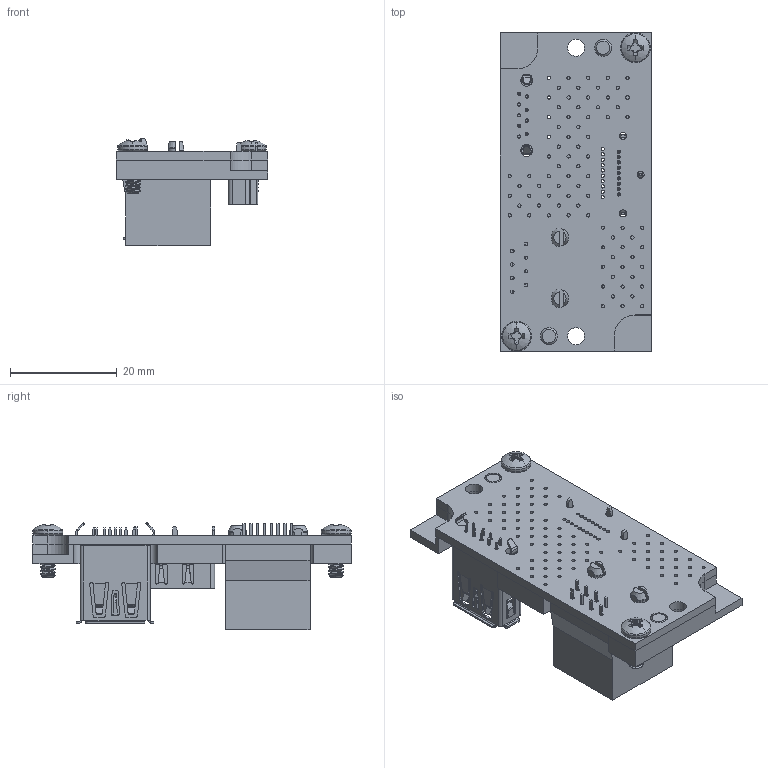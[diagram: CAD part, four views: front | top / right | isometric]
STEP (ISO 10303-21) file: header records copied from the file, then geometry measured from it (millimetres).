
FILE_DESCRIPTION (( 'STEP AP214' ), '1' );
FILE_NAME ('820921.STEP', '2024-08-01T15:25:48', ( '' ), ( '' ), 'SwSTEP 2.0', 'SolidWorks 2022', '' );
FILE_SCHEMA (( 'AUTOMOTIVE_DESIGN' ));
Length unit declared in the file: inch
Products named in the file (13): 98381A468_98381A468; 10117836_Mounted; 476591000; 476591000_4; 923001; 91735A103_91735A103; 820921; 476591000_2; c-5556416-01-b-3d; 820320; C26455A-PCB; 476591000_1
Assembly tree (14 placements, depth 4):
  820921
    820320
    98381A468_98381A468  x2
    91735A103_91735A103  x2
    923001
      476591000
        476591000_1
        476591000_4
        476591000_2
        476591000
      C26455A-PCB
      10117836_Mounted
      c-5556416-01-b-3d
Bounding box: 28.32 x 59.56 x 20.03 mm (x, y, z)
Volume: 8979.9 mm3; surface area: 13307 mm2
Topology: 11 solids, 12 shells, 2920 faces, 8355 edges, 5380 vertices
Faces by surface type: plane 1832, cylinder 948, bspline 98, cone 30, torus 8, sphere 4
Entity records: 99951 total; most frequent: CARTESIAN_POINT 23073, ORIENTED_EDGE 16014, DIRECTION 14439, EDGE_CURVE 8013, LINE 5933, VECTOR 5933, VERTEX_POINT 5155, AXIS2_PLACEMENT_3D 4253
